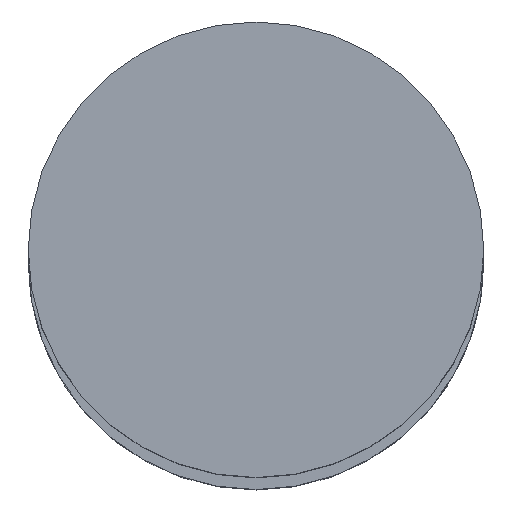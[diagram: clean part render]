
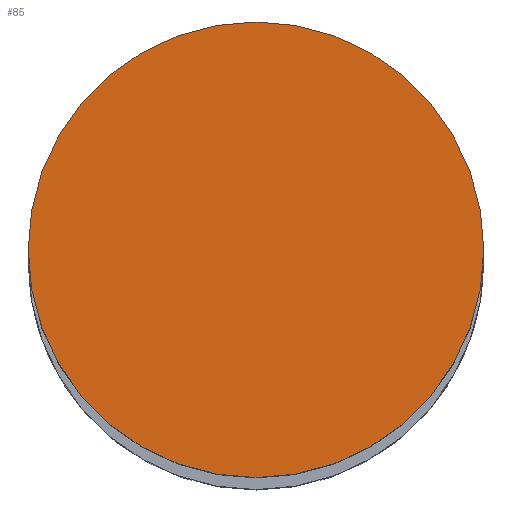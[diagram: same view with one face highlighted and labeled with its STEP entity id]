
A CAD part, top view. The second image highlights one B-rep face of the part: STEP entity #85.
In plain terms, the highlighted planar face has unit normal (0, 0, 1).
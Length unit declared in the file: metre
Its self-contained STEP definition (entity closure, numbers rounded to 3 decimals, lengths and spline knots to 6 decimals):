
#85=ADVANCED_FACE('56:4857',(#165),#166,.F.);
#165=FACE_OUTER_BOUND('',#244,.T.);
#166=PLANE('',#245);
#244=EDGE_LOOP('',(#390,#391));
#245=AXIS2_PLACEMENT_3D('',#392,#393,#394);
#390=ORIENTED_EDGE('',*,*,#433,.F.);
#391=ORIENTED_EDGE('',*,*,#478,.F.);
#392=CARTESIAN_POINT('',(-0.000092,0.000095,3.204));
#393=DIRECTION('',(0.0,0.0,-1.0));
#394=DIRECTION('',(1.0,0.0,0.0));
#433=EDGE_CURVE('27:1418',#505,#501,#507,.T.);
#478=EDGE_CURVE('',#501,#505,#572,.T.);
#501=VERTEX_POINT('',#607);
#505=VERTEX_POINT('',#612);
#507=CIRCLE('',#615,0.0155);
#572=CIRCLE('',#694,0.0155);
#607=CARTESIAN_POINT('',(0.015408,0.000095,3.204));
#612=CARTESIAN_POINT('',(-0.015592,0.000095,3.204));
#615=AXIS2_PLACEMENT_3D('',#736,#737,#738);
#694=AXIS2_PLACEMENT_3D('',#801,#802,#803);
#736=CARTESIAN_POINT('',(-0.000092,0.000095,3.204));
#737=DIRECTION('',(0.0,0.0,-1.0));
#738=DIRECTION('',(1.0,0.0,0.0));
#801=CARTESIAN_POINT('',(-0.000092,0.000095,3.204));
#802=DIRECTION('',(0.0,0.0,-1.0));
#803=DIRECTION('',(1.0,0.0,0.0));
